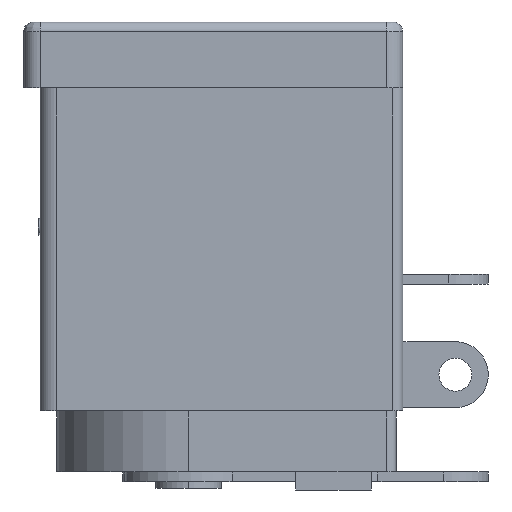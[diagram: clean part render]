
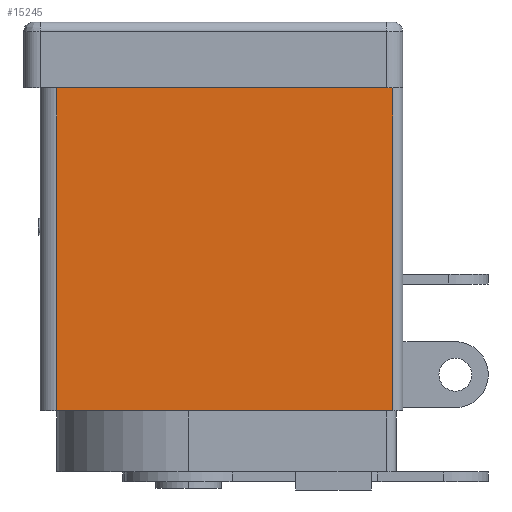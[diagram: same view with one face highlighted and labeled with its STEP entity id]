
A CAD part, left-side view. The second image highlights one B-rep face of the part: STEP entity #15245.
In plain terms, the highlighted planar face has unit normal (-1, 0, 0).
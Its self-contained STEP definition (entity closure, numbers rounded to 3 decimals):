
#46 = DIRECTION ( 'NONE',  ( 0., 0., -1. ) ) ;
#1322 = DIRECTION ( 'NONE',  ( -1., 0., 0. ) ) ;
#2382 = VECTOR ( 'NONE', #17413, 1000. ) ;
#2554 = VECTOR ( 'NONE', #22065, 1000. ) ;
#3285 = VECTOR ( 'NONE', #7084, 1000. ) ;
#4223 = ORIENTED_EDGE ( 'NONE', *, *, #20890, .F. ) ;
#5277 = VERTEX_POINT ( 'NONE', #14919 ) ;
#5497 = VECTOR ( 'NONE', #46, 1000. ) ;
#6200 = VERTEX_POINT ( 'NONE', #7955 ) ;
#7084 = DIRECTION ( 'NONE',  ( 0., 0., -1. ) ) ;
#7539 = CARTESIAN_POINT ( 'NONE',  ( -4.5, -6.2, 9.8 ) ) ;
#7955 = CARTESIAN_POINT ( 'NONE',  ( -4.5, 4., 0. ) ) ;
#8693 = PLANE ( 'NONE',  #12746 ) ;
#8818 = FACE_OUTER_BOUND ( 'NONE', #24387, .T. ) ;
#9283 = CARTESIAN_POINT ( 'NONE',  ( -4.5, -6.2, 9.8 ) ) ;
#10022 = EDGE_CURVE ( 'NONE', #5277, #6200, #20146, .T. ) ;
#10140 = CARTESIAN_POINT ( 'NONE',  ( -4.5, 4., 9.8 ) ) ;
#11121 = LINE ( 'NONE', #7539, #5497 ) ;
#11149 = CARTESIAN_POINT ( 'NONE',  ( -4.5, 4., 9.8 ) ) ;
#11240 = VERTEX_POINT ( 'NONE', #18945 ) ;
#11619 = LINE ( 'NONE', #10140, #2382 ) ;
#12746 = AXIS2_PLACEMENT_3D ( 'NONE', #23863, #1322, #18049 ) ;
#14536 = LINE ( 'NONE', #23810, #2554 ) ;
#14919 = CARTESIAN_POINT ( 'NONE',  ( -4.5, 4., 9.8 ) ) ;
#15245 = ADVANCED_FACE ( 'NONE', ( #8818 ), #8693, .T. ) ;
#15962 = EDGE_CURVE ( 'NONE', #6200, #11240, #14536, .T. ) ;
#17413 = DIRECTION ( 'NONE',  ( 0., -1., 0. ) ) ;
#18049 = DIRECTION ( 'NONE',  ( 0., 0., 1. ) ) ;
#18593 = EDGE_CURVE ( 'NONE', #21823, #11240, #11121, .T. ) ;
#18945 = CARTESIAN_POINT ( 'NONE',  ( -4.5, -6.2, 0. ) ) ;
#20146 = LINE ( 'NONE', #11149, #3285 ) ;
#20484 = ORIENTED_EDGE ( 'NONE', *, *, #10022, .T. ) ;
#20846 = ORIENTED_EDGE ( 'NONE', *, *, #15962, .T. ) ;
#20847 = ORIENTED_EDGE ( 'NONE', *, *, #18593, .F. ) ;
#20890 = EDGE_CURVE ( 'NONE', #5277, #21823, #11619, .T. ) ;
#21823 = VERTEX_POINT ( 'NONE', #9283 ) ;
#22065 = DIRECTION ( 'NONE',  ( 0., -1., 0. ) ) ;
#23810 = CARTESIAN_POINT ( 'NONE',  ( -4.5, 4., 0. ) ) ;
#23863 = CARTESIAN_POINT ( 'NONE',  ( -4.5, 4.5, 0. ) ) ;
#24387 = EDGE_LOOP ( 'NONE', ( #4223, #20484, #20846, #20847 ) ) ;
